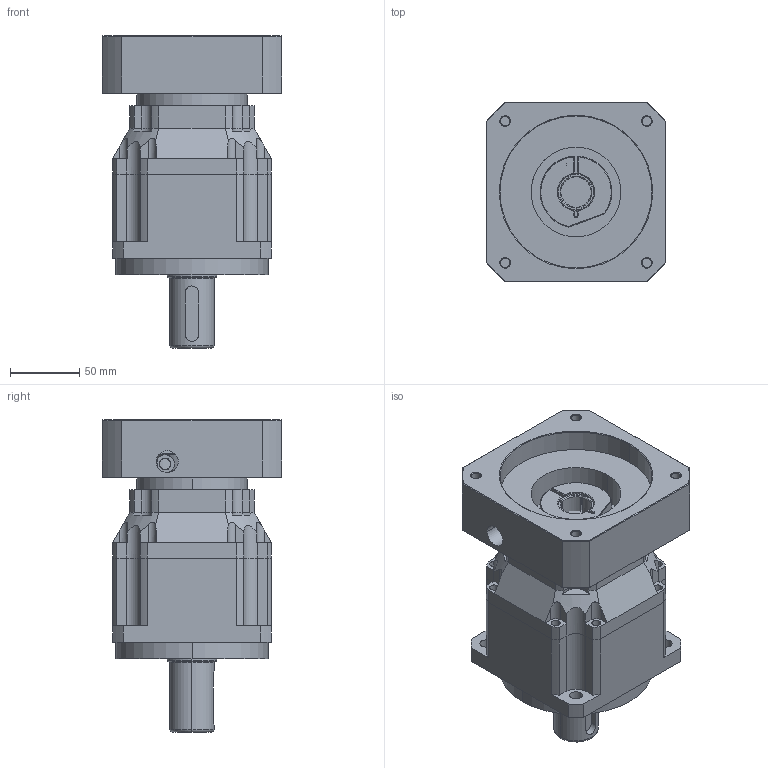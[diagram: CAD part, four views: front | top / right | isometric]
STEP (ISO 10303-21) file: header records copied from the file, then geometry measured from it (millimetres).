
FILE_DESCRIPTION (( 'STEP AP203' ), '1' );
FILE_NAME ('蚾饜极1.STEP', '2020-05-19T01:57:28', ( 'Windows 蚚誧' ), ( 'Microsoft' ), 'SwSTEP 2.0', 'SolidWorks 2017', '' );
FILE_SCHEMA (( 'CONFIG_CONTROL_DESIGN' ));
Length unit declared in the file: millimetre
Products named in the file (8): CQB-001; 090-110-145-M8-42; JJT-090; 090-HKT; 蚾饜极1; 090-22CZA; CQA-001; SCA-001-32
Assembly tree (7 placements, depth 2):
  蚾饜极1
    090-110-145-M8-42
    090-22CZA
    JJT-090
    CQA-001
    CQB-001
    SCA-001-32
    090-HKT
Bounding box: 130 x 130 x 226 mm (x, y, z)
Volume: 1844505.3 mm3; surface area: 204850.2 mm2
Topology: 7 solids, 7 shells, 371 faces, 945 edges, 602 vertices
Faces by surface type: plane 161, cylinder 141, cone 61, torus 8
Entity records: 12769 total; most frequent: CARTESIAN_POINT 2808, DIRECTION 1963, ORIENTED_EDGE 1882, EDGE_CURVE 941, AXIS2_PLACEMENT_3D 749, VERTEX_POINT 602, VECTOR 465, LINE 465
